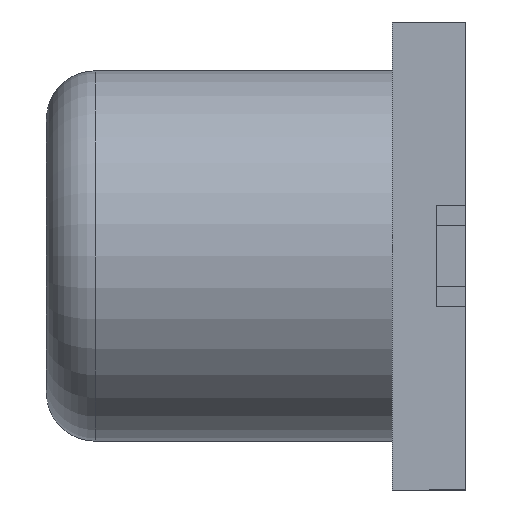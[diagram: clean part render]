
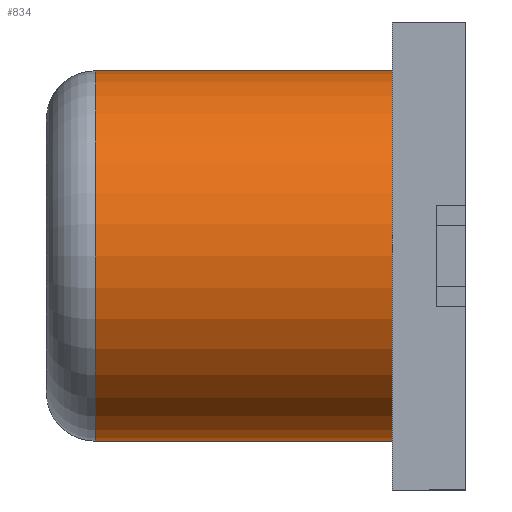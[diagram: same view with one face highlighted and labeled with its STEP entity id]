
A CAD part, left-side view. The second image highlights one B-rep face of the part: STEP entity #834.
In plain terms, the highlighted cylindrical face has radius 1.9 mm (diameter 3.8 mm), a partial arc.
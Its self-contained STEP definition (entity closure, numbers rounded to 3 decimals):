
#3 = DIRECTION ( 'NONE',  ( 0., 0., 1. ) ) ;
#21 = CARTESIAN_POINT ( 'NONE',  ( -3.25, 0.75, 0. ) ) ;
#34 = DIRECTION ( 'NONE',  ( 0., 1., 0. ) ) ;
#107 = EDGE_CURVE ( 'NONE', #328, #362, #199, .T. ) ;
#108 = EDGE_CURVE ( 'NONE', #328, #329, #248, .T. ) ;
#109 = EDGE_CURVE ( 'NONE', #329, #368, #255, .T. ) ;
#142 = CIRCLE ( 'NONE', #880, 1.9 ) ;
#185 = CYLINDRICAL_SURFACE ( 'NONE', #973, 1.9 ) ;
#199 = LINE ( 'NONE', #786, #247 ) ;
#244 = VECTOR ( 'NONE', #791, 1000. ) ;
#247 = VECTOR ( 'NONE', #784, 1000. ) ;
#248 = CIRCLE ( 'NONE', #980, 1.9 ) ;
#255 = LINE ( 'NONE', #781, #244 ) ;
#256 = FACE_OUTER_BOUND ( 'NONE', #370, .T. ) ;
#328 = VERTEX_POINT ( 'NONE', #732 ) ;
#329 = VERTEX_POINT ( 'NONE', #730 ) ;
#362 = VERTEX_POINT ( 'NONE', #710 ) ;
#368 = VERTEX_POINT ( 'NONE', #702 ) ;
#370 = EDGE_LOOP ( 'NONE', ( #1247, #1248, #1249, #1250 ) ) ;
#692 = CARTESIAN_POINT ( 'NONE',  ( -3.25, 4.3, 0. ) ) ;
#696 = DIRECTION ( 'NONE',  ( 0., -1., 0. ) ) ;
#698 = DIRECTION ( 'NONE',  ( 0., 0., -1. ) ) ;
#702 = CARTESIAN_POINT ( 'NONE',  ( -3.25, 0.75, -1.9 ) ) ;
#710 = CARTESIAN_POINT ( 'NONE',  ( -3.25, 0.75, 1.9 ) ) ;
#730 = CARTESIAN_POINT ( 'NONE',  ( -3.25, 3.8, -1.9 ) ) ;
#732 = CARTESIAN_POINT ( 'NONE',  ( -3.25, 3.8, 1.9 ) ) ;
#777 = DIRECTION ( 'NONE',  ( 0., 0., 1. ) ) ;
#778 = DIRECTION ( 'NONE',  ( 0., -1., 0. ) ) ;
#779 = CARTESIAN_POINT ( 'NONE',  ( -3.25, 3.8, 0. ) ) ;
#781 = CARTESIAN_POINT ( 'NONE',  ( -3.25, 4.3, -1.9 ) ) ;
#784 = DIRECTION ( 'NONE',  ( 0., -1., 0. ) ) ;
#786 = CARTESIAN_POINT ( 'NONE',  ( -3.25, 4.3, 1.9 ) ) ;
#791 = DIRECTION ( 'NONE',  ( 0., -1., 0. ) ) ;
#834 = ADVANCED_FACE ( 'NONE', ( #256 ), #185, .T. ) ;
#880 = AXIS2_PLACEMENT_3D ( 'NONE', #21, #34, #3 ) ;
#973 = AXIS2_PLACEMENT_3D ( 'NONE', #692, #696, #698 ) ;
#980 = AXIS2_PLACEMENT_3D ( 'NONE', #779, #778, #777 ) ;
#991 = EDGE_CURVE ( 'NONE', #368, #362, #142, .T. ) ;
#1247 = ORIENTED_EDGE ( 'NONE', *, *, #107, .F. ) ;
#1248 = ORIENTED_EDGE ( 'NONE', *, *, #108, .T. ) ;
#1249 = ORIENTED_EDGE ( 'NONE', *, *, #109, .T. ) ;
#1250 = ORIENTED_EDGE ( 'NONE', *, *, #991, .T. ) ;
